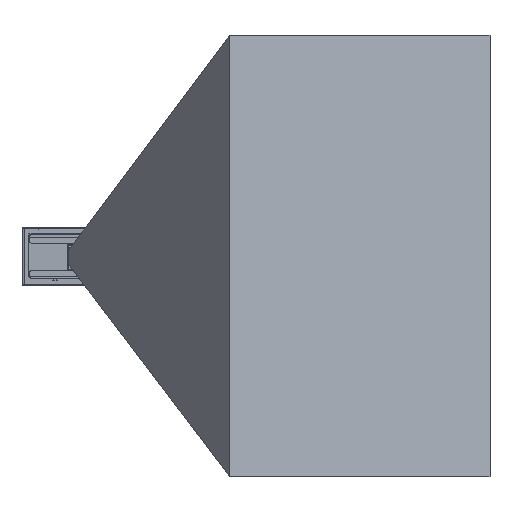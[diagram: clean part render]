
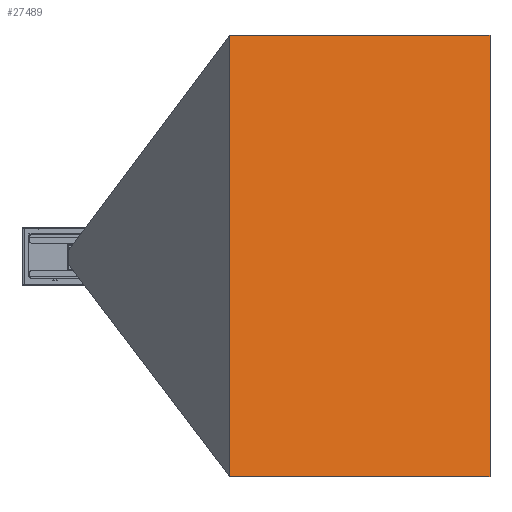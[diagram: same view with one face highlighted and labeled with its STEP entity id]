
A CAD part, top view. The second image highlights one B-rep face of the part: STEP entity #27489.
In plain terms, the highlighted planar face has unit normal (0.322, 0, 0.947).
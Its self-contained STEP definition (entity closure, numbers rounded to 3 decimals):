
#27239=DIRECTION('',(0.947,0.,-0.322));
#27240=VECTOR('',#27239,134.506);
#27241=CARTESIAN_POINT('',(51.574,-108.035,
430.469));
#27242=LINE('',#27241,#27240);
#27267=DIRECTION('',(0.,1.,0.));
#27268=VECTOR('',#27267,216.071);
#27269=CARTESIAN_POINT('',(51.574,-108.035,
430.469));
#27270=LINE('',#27269,#27268);
#27271=DIRECTION('',(0.,-1.,0.));
#27272=VECTOR('',#27271,216.071);
#27273=CARTESIAN_POINT('',(178.896,108.035,387.101));
#27274=LINE('',#27273,#27272);
#27275=DIRECTION('',(-0.947,0.,0.322));
#27276=VECTOR('',#27275,134.506);
#27277=CARTESIAN_POINT('',(178.896,108.035,387.101));
#27278=LINE('',#27277,#27276);
#27332=CARTESIAN_POINT('',(178.896,-108.035,387.101));
#27334=VERTEX_POINT('',#27332);
#27335=CARTESIAN_POINT('',(178.896,108.035,387.101));
#27336=VERTEX_POINT('',#27335);
#27337=CARTESIAN_POINT('',(51.574,-108.035,
430.469));
#27338=VERTEX_POINT('',#27337);
#27339=CARTESIAN_POINT('',(51.574,108.035,430.469));
#27340=VERTEX_POINT('',#27339);
#27477=CARTESIAN_POINT('',(115.235,0.,408.785));
#27478=DIRECTION('',(0.322,0.,0.947));
#27479=DIRECTION('',(0.947,0.,-0.322));
#27480=AXIS2_PLACEMENT_3D('',#27477,#27478,#27479);
#27481=PLANE('',#27480);
#27482=ORIENTED_EDGE('',*,*,#27449,.F.);
#27483=ORIENTED_EDGE('',*,*,#27469,.T.);
#27485=ORIENTED_EDGE('',*,*,#27484,.F.);
#27486=ORIENTED_EDGE('',*,*,#27426,.T.);
#27487=EDGE_LOOP('',(#27482,#27483,#27485,#27486));
#27488=FACE_OUTER_BOUND('',#27487,.F.);
#27426=EDGE_CURVE('',#27336,#27334,#27274,.T.);
#27449=EDGE_CURVE('',#27338,#27334,#27242,.T.);
#27469=EDGE_CURVE('',#27338,#27340,#27270,.T.);
#27484=EDGE_CURVE('',#27336,#27340,#27278,.T.);
#27489=ADVANCED_FACE('',(#27488),#27481,.T.);
